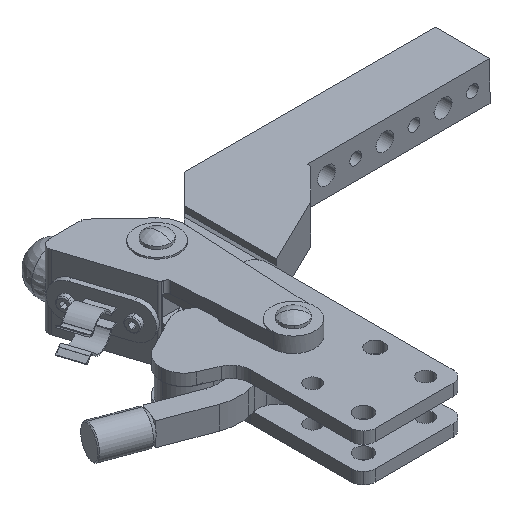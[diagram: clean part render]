
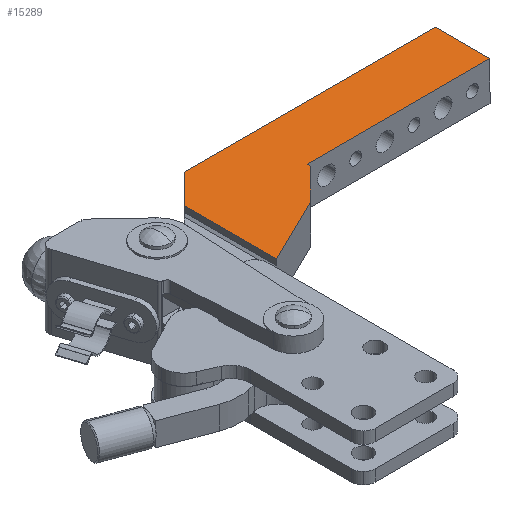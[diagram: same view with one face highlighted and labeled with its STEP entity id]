
A CAD part, isometric view. The second image highlights one B-rep face of the part: STEP entity #15289.
In plain terms, the highlighted planar face has unit normal (0, 0, 1).
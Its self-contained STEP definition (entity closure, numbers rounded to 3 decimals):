
#14962=CARTESIAN_POINT('',(-21.911,-22.837,-2.8));
#14963=VERTEX_POINT('',#14962);
#14970=CARTESIAN_POINT('',(-21.911,24.536,-2.8));
#14971=VERTEX_POINT('',#14970);
#14972=CARTESIAN_POINT('',(-21.911,24.536,-2.8));
#14973=DIRECTION('',(0.,-1.,0.));
#14974=VECTOR('',#14973,47.373);
#14975=LINE('',#14972,#14974);
#14976=EDGE_CURVE('',#14971,#14963,#14975,.T.);
#15207=CARTESIAN_POINT('',(-6.911,39.536,-2.8));
#15208=VERTEX_POINT('',#15207);
#15209=CARTESIAN_POINT('',(-21.911,24.536,-2.8));
#15210=DIRECTION('',(0.707,0.707,0.));
#15211=VECTOR('',#15210,21.213);
#15212=LINE('',#15209,#15211);
#15213=EDGE_CURVE('',#14971,#15208,#15212,.T.);
#15234=CARTESIAN_POINT('',(-90.662,-44.177,-2.8));
#15235=DIRECTION('',(0.0,0.0,1.0));
#15236=DIRECTION('',(1.,0.,0.0));
#15237=AXIS2_PLACEMENT_3D('',#15234,#15235,#15236);
#15238=PLANE('',#15237);
#15239=ORIENTED_EDGE('',*,*,#14976,.T.);
#15240=CARTESIAN_POINT('',(12.544,-6.009,-2.8));
#15241=VERTEX_POINT('',#15240);
#15242=CARTESIAN_POINT('',(12.544,-6.009,-2.8));
#15243=DIRECTION('',(-0.899,-0.439,0.));
#15244=VECTOR('',#15243,38.345);
#15245=LINE('',#15242,#15244);
#15246=EDGE_CURVE('',#15241,#14963,#15245,.T.);
#15247=ORIENTED_EDGE('',*,*,#15246,.F.);
#15248=CARTESIAN_POINT('',(28.089,9.536,-2.8));
#15249=VERTEX_POINT('',#15248);
#15250=CARTESIAN_POINT('',(28.089,9.536,-2.8));
#15251=DIRECTION('',(-0.707,-0.707,0.));
#15252=VECTOR('',#15251,21.984);
#15253=LINE('',#15250,#15252);
#15254=EDGE_CURVE('',#15249,#15241,#15253,.T.);
#15255=ORIENTED_EDGE('',*,*,#15254,.F.);
#15256=CARTESIAN_POINT('',(28.089,11.536,-2.8));
#15257=VERTEX_POINT('',#15256);
#15258=CARTESIAN_POINT('',(28.089,11.536,-2.8));
#15259=DIRECTION('',(0.,-1.,0.0));
#15260=VECTOR('',#15259,2.);
#15261=LINE('',#15258,#15260);
#15262=EDGE_CURVE('',#15257,#15249,#15261,.T.);
#15263=ORIENTED_EDGE('',*,*,#15262,.F.);
#15264=CARTESIAN_POINT('',(122.089,11.536,-2.8));
#15265=VERTEX_POINT('',#15264);
#15266=CARTESIAN_POINT('',(122.089,11.536,-2.8));
#15267=DIRECTION('',(-1.,0.,0.));
#15268=VECTOR('',#15267,94.);
#15269=LINE('',#15266,#15268);
#15270=EDGE_CURVE('',#15265,#15257,#15269,.T.);
#15271=ORIENTED_EDGE('',*,*,#15270,.F.);
#15272=CARTESIAN_POINT('',(122.089,39.536,-2.8));
#15273=VERTEX_POINT('',#15272);
#15274=CARTESIAN_POINT('',(122.089,39.536,-2.8));
#15275=DIRECTION('',(0.,-1.,0.));
#15276=VECTOR('',#15275,28.);
#15277=LINE('',#15274,#15276);
#15278=EDGE_CURVE('',#15273,#15265,#15277,.T.);
#15279=ORIENTED_EDGE('',*,*,#15278,.F.);
#15280=CARTESIAN_POINT('',(-6.911,39.536,-2.8));
#15281=DIRECTION('',(1.0,0.,0.));
#15282=VECTOR('',#15281,129.0);
#15283=LINE('',#15280,#15282);
#15284=EDGE_CURVE('',#15208,#15273,#15283,.T.);
#15285=ORIENTED_EDGE('',*,*,#15284,.F.);
#15286=ORIENTED_EDGE('',*,*,#15213,.F.);
#15287=EDGE_LOOP('',(#15239,#15247,#15255,#15263,#15271,#15279,#15285,#15286));
#15288=FACE_OUTER_BOUND('',#15287,.T.);
#15289=ADVANCED_FACE('',(#15288),#15238,.T.);
